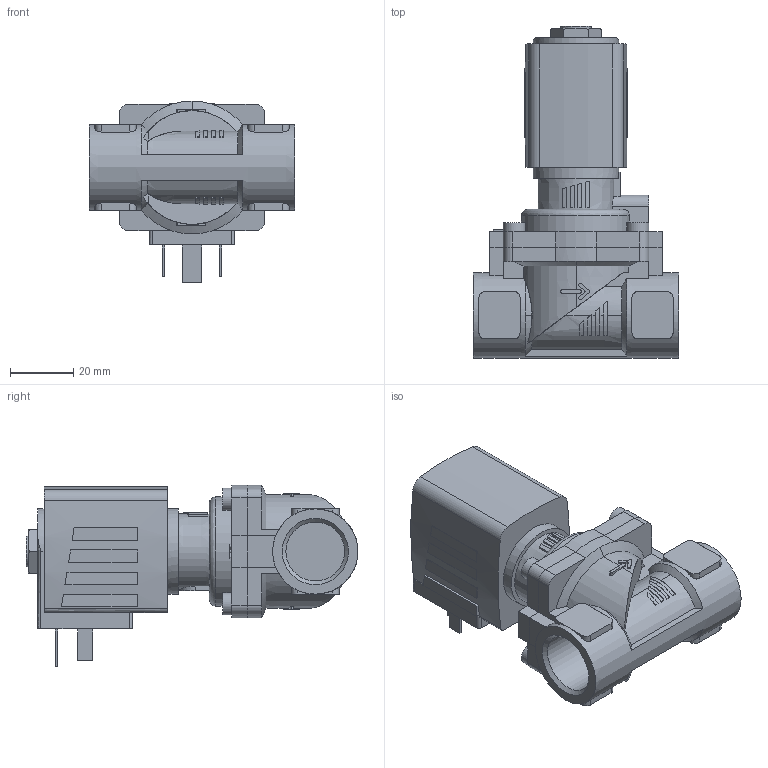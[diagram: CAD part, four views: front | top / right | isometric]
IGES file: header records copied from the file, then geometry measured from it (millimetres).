
Start section: Data from Parasolid IGES Translator 26.0.171, Copyright(c) 2006 Siemens PLM Software. All Rights Reserved.
Global section: file name: 6281-300121-2_2-Way_Solenoid_Valve__Servo-assisted__General_Purpose.igs; native system: By Siemens PLM Incorporated; preprocessor: XPlus GENERIC/IGES 26.0.171; author: Noname; organization: Noname; date: 20240621.153638; units: millimetre
Bounding box: 65 x 105 x 57.5 mm (x, y, z)
Surface area: 29379.6 mm2 (no closed solid volume)
Topology: 0 solids, 0 shells, 372 faces, 1928 edges, 1913 vertices
Faces by surface type: extrusion 242, revolution 130
